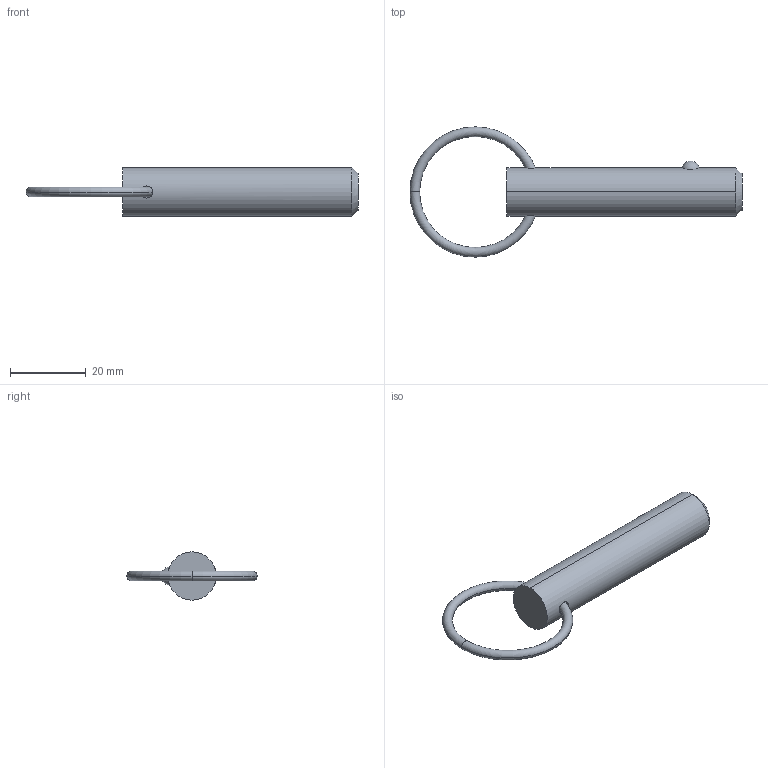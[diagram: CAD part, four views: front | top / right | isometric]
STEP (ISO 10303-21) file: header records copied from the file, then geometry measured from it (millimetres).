
FILE_DESCRIPTION (( 'STEP AP203' ), '1' );
FILE_NAME ('33012.W5015.step', '2024-11-01T14:12:49', ( '' ), ( '' ), 'SwSTEP 2.0', 'SolidWorks 2019', '' );
FILE_SCHEMA (( 'CONFIG_CONTROL_DESIGN' ));
Length unit declared in the file: millimetre
Products named in the file (3): Part2_33012.W5015; Part1_33012.W5015; 33012.W5015
Assembly tree (2 placements, depth 2):
  33012.W5015
    Part1_33012.W5015
    Part2_33012.W5015
Bounding box: 87.39 x 34.29 x 12.7 mm (x, y, z)
Volume: 8218.1 mm3; surface area: 3601.9 mm2
Topology: 2 solids, 2 shells, 16 faces, 31 edges, 18 vertices
Faces by surface type: torus 8, sphere 2, cone 2, cylinder 2, plane 2
Entity records: 885 total; most frequent: CARTESIAN_POINT 242, DIRECTION 88, ORIENTED_EDGE 62, AXIS2_PLACEMENT_3D 42, EDGE_CURVE 31, PERSON_AND_ORGANIZATION 26, CIRCLE 21, CALENDAR_DATE 19
